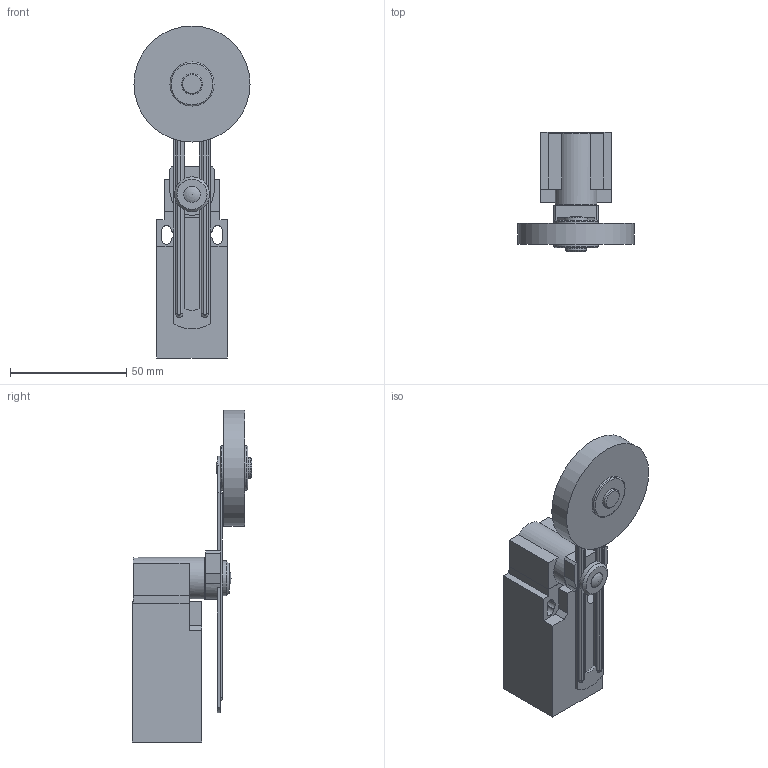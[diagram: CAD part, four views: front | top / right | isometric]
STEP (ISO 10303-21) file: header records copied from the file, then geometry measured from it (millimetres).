
FILE_DESCRIPTION((''),'2;1');
FILE_NAME('D:\Documenti_D\Corrispondenza\Comepi\Catalogo da fare\Modelli Nov 2011\AP\STEP\AP1-T52.iam.stp','2011-11-17T11:45:00',(''),(''),'Autodesk Inventor 2010','Autodesk Inventor 2010','');
FILE_SCHEMA(('AUTOMOTIVE_DESIGN { 1 0 10303 214 1 1 1 1 }'));
Length unit declared in the file: millimetre
Products named in the file (6): AP1-T52; AP1; T52.iam; T52_1; T52_2; T52_3
Assembly tree (5 placements, depth 3):
  AP1-T52
    AP1
    T52.iam
      T52_1
      T52_2
      T52_3
Bounding box: 50 x 51.45 x 143 mm (x, y, z)
Volume: 82352.9 mm3; surface area: 24402 mm2
Topology: 5 solids, 5 shells, 110 faces, 263 edges, 174 vertices
Faces by surface type: plane 74, cylinder 26, bspline 4, torus 3, cone 2, sphere 1
Full cylindrical faces by diameter (mm): 6 x2, 7 x1, 9 x1, 15 x2, 18 x1, 19 x2, 20.4 x1, 50 x1
Entity records: 3436 total; most frequent: CARTESIAN_POINT 707, DIRECTION 548, ORIENTED_EDGE 482, EDGE_CURVE 241, AXIS2_PLACEMENT_3D 190, VERTEX_POINT 169, VECTOR 168, LINE 168
